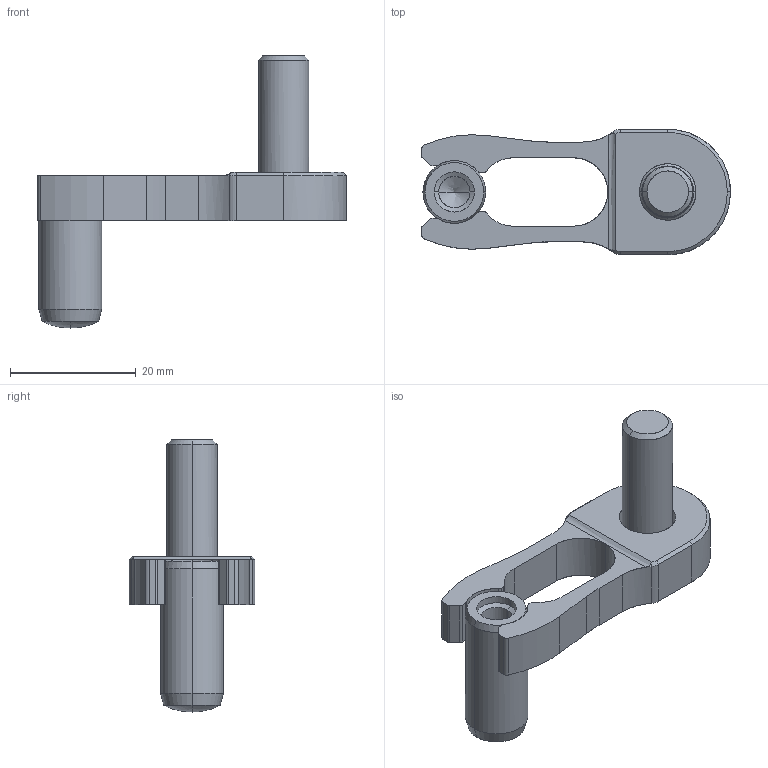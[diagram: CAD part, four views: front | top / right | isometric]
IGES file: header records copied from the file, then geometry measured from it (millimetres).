
Start section: START RECORD GO HERE.
Global section: file name: rc205010.igs; native system: DASSAULT SYSTEMES CATIA V5 R20 - www.3ds.com; preprocessor: CATIA Version 5 Release 20 ; author: Utente; organization: NB04-ASUS; date: 20201103.214419; units: millimetre
Bounding box: 49.23 x 20 x 43.35 mm (x, y, z)
Surface area: 4679.5 mm2 (no closed solid volume)
Topology: 0 solids, 0 shells, 107 faces, 519 edges, 514 vertices
Faces by surface type: revolution 71, plane 36
